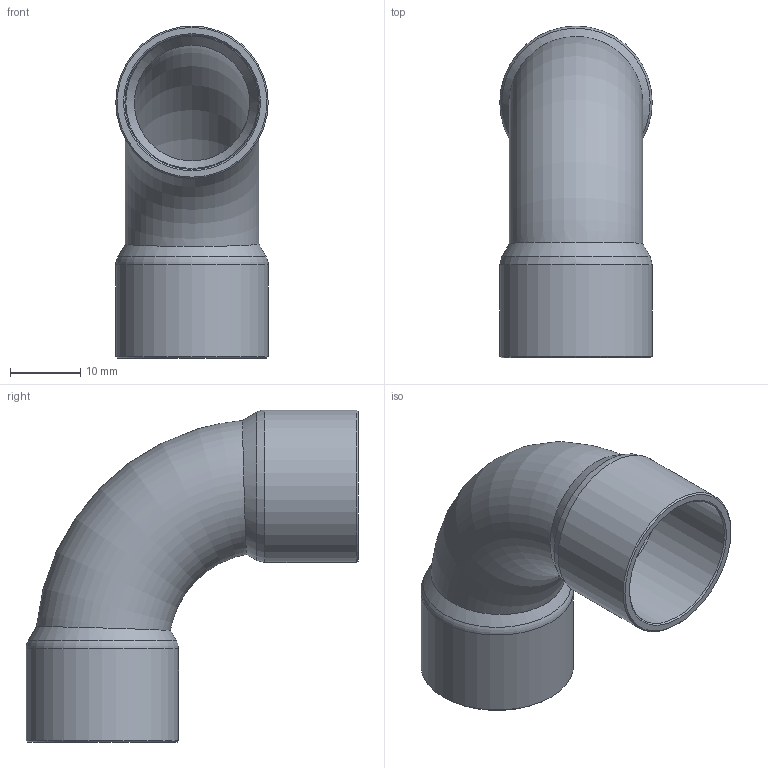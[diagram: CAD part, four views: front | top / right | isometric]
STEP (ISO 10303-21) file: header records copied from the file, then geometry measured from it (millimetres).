
FILE_DESCRIPTION((''),'2;1');
FILE_NAME('G:\SANHA-Ternat\Technik\Management\Bouwmaten + markeringen\z-maattekeningen 3D\29000s\29002A34_3d.stp','2017-07-26T08:45:50',('vdvijverd'),(''),'Autodesk Inventor 2009','Autodesk Inventor 2009','');
FILE_SCHEMA(('AUTOMOTIVE_DESIGN { 1 0 10303 214 1 1 1 1 }'));
Length unit declared in the file: millimetre
Products named in the file (1): 29002A34_3d
Bounding box: 21.77 x 47.38 x 47.38 mm (x, y, z)
Volume: 4957.7 mm3; surface area: 7771.7 mm2
Topology: 1 solids, 1 shells, 20 faces, 38 edges, 20 vertices
Faces by surface type: bspline 8, cone 6, torus 3, cylinder 2, plane 1
Full cylindrical faces by diameter (mm): 19.17 x1, 21.77 x1
Entity records: 742 total; most frequent: CARTESIAN_POINT 412, DIRECTION 58, ORIENTED_EDGE 40, EDGE_LOOP 40, AXIS2_PLACEMENT_3D 29, VERTEX_POINT 20, EDGE_CURVE 20, FACE_OUTER_BOUND 20
